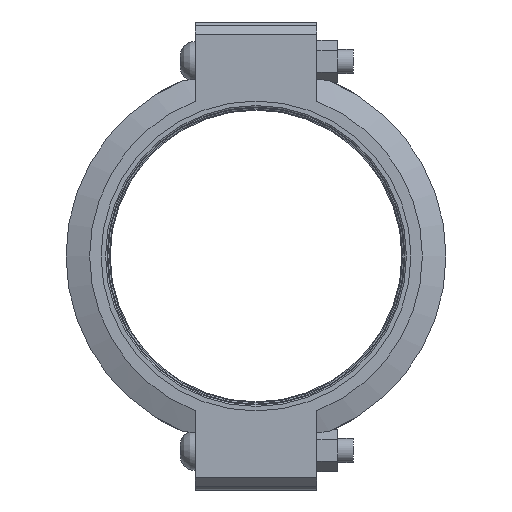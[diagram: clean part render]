
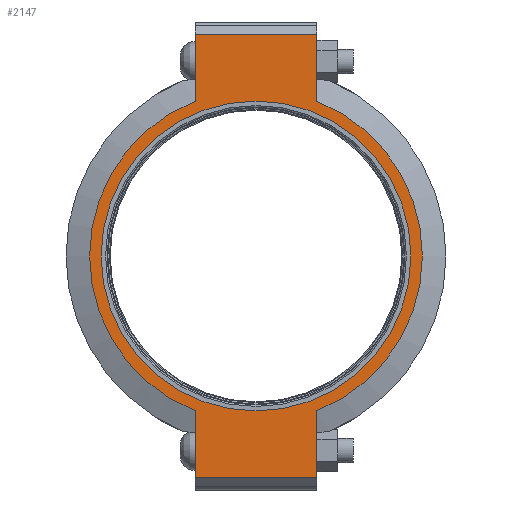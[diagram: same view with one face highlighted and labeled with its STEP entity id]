
A CAD part, left-side view. The second image highlights one B-rep face of the part: STEP entity #2147.
In plain terms, the highlighted planar face has unit normal (-1, 0, 0) as drawn and (0, 0, 1) by its records, which use the part's own axes.
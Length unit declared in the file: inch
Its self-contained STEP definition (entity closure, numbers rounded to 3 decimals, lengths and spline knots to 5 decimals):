
#200=LINE('',#3801,#295);
#211=LINE('',#3852,#306);
#217=LINE('',#3878,#312);
#219=LINE('',#3881,#314);
#220=LINE('',#3886,#315);
#221=LINE('',#3887,#316);
#295=VECTOR('',#3110,0.3937);
#306=VECTOR('',#3141,0.3937);
#312=VECTOR('',#3159,0.3937);
#314=VECTOR('',#3163,0.3937);
#315=VECTOR('',#3168,0.3937);
#316=VECTOR('',#3169,0.3937);
#383=FACE_BOUND('',#656,.T.);
#428=PLANE('',#2519);
#523=FACE_OUTER_BOUND('',#655,.T.);
#655=EDGE_LOOP('',(#1828,#1829,#1830,#1831,#1832,#1833,#1834,#1835));
#656=EDGE_LOOP('',(#1836));
#817=CIRCLE('',#2468,6.375);
#841=CIRCLE('',#2520,6.84375);
#842=CIRCLE('',#2521,6.84375);
#976=VERTEX_POINT('',#3627);
#1017=VERTEX_POINT('',#3798);
#1018=VERTEX_POINT('',#3800);
#1035=VERTEX_POINT('',#3847);
#1036=VERTEX_POINT('',#3851);
#1043=VERTEX_POINT('',#3873);
#1044=VERTEX_POINT('',#3877);
#1045=VERTEX_POINT('',#3883);
#1046=VERTEX_POINT('',#3885);
#1225=EDGE_CURVE('',#976,#976,#817,.T.);
#1282=EDGE_CURVE('',#1018,#1017,#200,.T.);
#1303=EDGE_CURVE('',#1036,#1035,#211,.T.);
#1314=EDGE_CURVE('',#1044,#1043,#217,.T.);
#1316=EDGE_CURVE('',#1044,#1017,#219,.T.);
#1317=EDGE_CURVE('',#1043,#1045,#841,.T.);
#1318=EDGE_CURVE('',#1045,#1046,#220,.T.);
#1319=EDGE_CURVE('',#1036,#1046,#221,.T.);
#1320=EDGE_CURVE('',#1035,#1018,#842,.T.);
#1828=ORIENTED_EDGE('',*,*,#1316,.F.);
#1829=ORIENTED_EDGE('',*,*,#1314,.T.);
#1830=ORIENTED_EDGE('',*,*,#1317,.T.);
#1831=ORIENTED_EDGE('',*,*,#1318,.T.);
#1832=ORIENTED_EDGE('',*,*,#1319,.F.);
#1833=ORIENTED_EDGE('',*,*,#1303,.T.);
#1834=ORIENTED_EDGE('',*,*,#1320,.T.);
#1835=ORIENTED_EDGE('',*,*,#1282,.T.);
#1836=ORIENTED_EDGE('',*,*,#1225,.T.);
#2147=ADVANCED_FACE('',(#523,#383),#428,.T.);
#2468=AXIS2_PLACEMENT_3D('',#3629,#3000,#3001);
#2519=AXIS2_PLACEMENT_3D('',#3882,#3164,#3165);
#2520=AXIS2_PLACEMENT_3D('',#3884,#3166,#3167);
#2521=AXIS2_PLACEMENT_3D('',#3888,#3170,#3171);
#3000=DIRECTION('center_axis',(0.,0.,-1.));
#3001=DIRECTION('ref_axis',(1.,0.,0.));
#3110=DIRECTION('',(1.,0.,0.));
#3141=DIRECTION('',(1.,0.,0.));
#3159=DIRECTION('',(-1.,0.,0.));
#3163=DIRECTION('',(0.,-1.,0.));
#3164=DIRECTION('center_axis',(0.,0.,1.));
#3165=DIRECTION('ref_axis',(-1.,0.,0.));
#3166=DIRECTION('center_axis',(0.,0.,1.));
#3167=DIRECTION('ref_axis',(1.,0.,0.));
#3168=DIRECTION('',(-1.,0.,0.));
#3169=DIRECTION('',(0.,1.,0.));
#3170=DIRECTION('center_axis',(0.,0.,1.));
#3171=DIRECTION('ref_axis',(1.,0.,0.));
#3627=CARTESIAN_POINT('',(-6.375,0.,1.315));
#3629=CARTESIAN_POINT('Origin',(0.,0.,1.315));
#3798=CARTESIAN_POINT('',(9.125,-2.5,1.315));
#3800=CARTESIAN_POINT('',(6.37079,-2.5,1.315));
#3801=CARTESIAN_POINT('',(-9.625,-2.5,1.315));
#3847=CARTESIAN_POINT('',(-6.37079,-2.5,1.315));
#3851=CARTESIAN_POINT('',(-9.125,-2.5,1.315));
#3852=CARTESIAN_POINT('',(-9.625,-2.5,1.315));
#3873=CARTESIAN_POINT('',(6.37079,2.5,1.315));
#3877=CARTESIAN_POINT('',(9.125,2.5,1.315));
#3878=CARTESIAN_POINT('',(9.625,2.5,1.315));
#3881=CARTESIAN_POINT('',(9.125,-1.25,1.315));
#3882=CARTESIAN_POINT('Origin',(0.,0.,
1.315));
#3883=CARTESIAN_POINT('',(-6.37079,2.5,1.315));
#3884=CARTESIAN_POINT('Origin',(0.,0.,1.315));
#3885=CARTESIAN_POINT('',(-9.125,2.5,1.315));
#3886=CARTESIAN_POINT('',(9.625,2.5,1.315));
#3887=CARTESIAN_POINT('',(-9.125,1.25,1.315));
#3888=CARTESIAN_POINT('Origin',(0.,0.,1.315));
